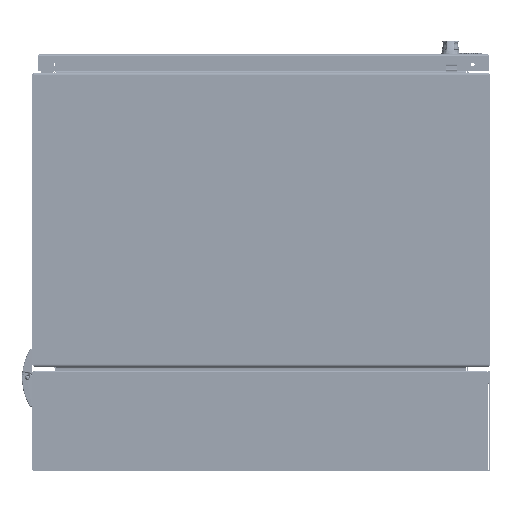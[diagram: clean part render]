
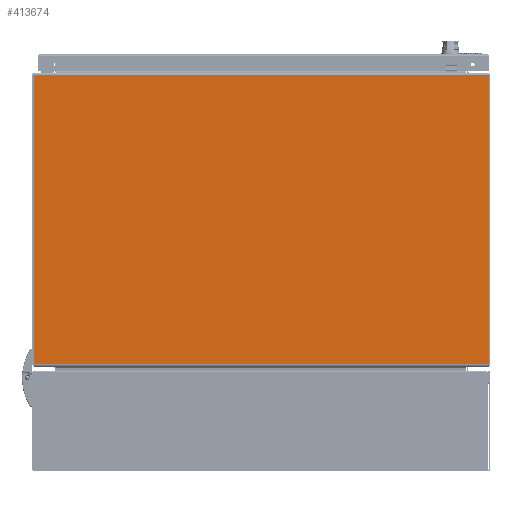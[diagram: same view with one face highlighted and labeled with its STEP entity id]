
A CAD part, front view. The second image highlights one B-rep face of the part: STEP entity #413674.
In plain terms, the highlighted planar face has unit normal (0, -1, 0).
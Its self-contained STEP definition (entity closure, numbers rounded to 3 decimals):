
#7201 = VERTEX_POINT ( 'NONE', #286776 ) ;
#7207 = VERTEX_POINT ( 'NONE', #286792 ) ;
#7213 = VERTEX_POINT ( 'NONE', #286806 ) ;
#7216 = VERTEX_POINT ( 'NONE', #286812 ) ;
#95807 = LINE ( 'NONE', #179483, #95814 ) ;
#95814 = VECTOR ( 'NONE', #179487, 1000. ) ;
#95829 = LINE ( 'NONE', #179541, #95843 ) ;
#95843 = VECTOR ( 'NONE', #179545, 1000. ) ;
#95951 = LINE ( 'NONE', #180404, #96015 ) ;
#96015 = VECTOR ( 'NONE', #180407, 1000. ) ;
#96031 = LINE ( 'NONE', #205211, #96060 ) ;
#96060 = VECTOR ( 'NONE', #205215, 1000. ) ;
#168855 = FACE_OUTER_BOUND ( 'NONE', #302043, .T. ) ;
#173308 = AXIS2_PLACEMENT_3D ( 'NONE', #216559, #216639, #216643 ) ;
#179483 = CARTESIAN_POINT ( 'NONE',  ( 348.171, 0., -225. ) ) ;
#179487 = DIRECTION ( 'NONE',  ( 0., 0., -1. ) ) ;
#179541 = CARTESIAN_POINT ( 'NONE',  ( -348.171, 0., -225. ) ) ;
#179545 = DIRECTION ( 'NONE',  ( 0., 0., 1. ) ) ;
#180404 = CARTESIAN_POINT ( 'NONE',  ( 348.171, 0., 220.885 ) ) ;
#180407 = DIRECTION ( 'NONE',  ( -1., 0., 0. ) ) ;
#205211 = CARTESIAN_POINT ( 'NONE',  ( -348.171, 0., -220.885 ) ) ;
#205215 = DIRECTION ( 'NONE',  ( 1., 0., 0. ) ) ;
#216559 = CARTESIAN_POINT ( 'NONE',  ( 348.171, 0., 225. ) ) ;
#216586 = PLANE ( 'NONE',  #173308 ) ;
#216639 = DIRECTION ( 'NONE',  ( 0., 1., 0. ) ) ;
#216643 = DIRECTION ( 'NONE',  ( 0., 0., 1. ) ) ;
#286776 = CARTESIAN_POINT ( 'NONE',  ( 348.171, 0., -220.885 ) ) ;
#286792 = CARTESIAN_POINT ( 'NONE',  ( 348.171, 0., 220.885 ) ) ;
#286806 = CARTESIAN_POINT ( 'NONE',  ( -348.171, 0., -220.885 ) ) ;
#286812 = CARTESIAN_POINT ( 'NONE',  ( -348.171, 0., 220.885 ) ) ;
#302043 = EDGE_LOOP ( 'NONE', ( #511148, #511152, #511156, #511160 ) ) ;
#413674 = ADVANCED_FACE ( 'NONE', ( #168855 ), #216586, .F. ) ;
#511148 = ORIENTED_EDGE ( 'NONE', *, *, #545712, .T. ) ;
#511152 = ORIENTED_EDGE ( 'NONE', *, *, #545675, .F. ) ;
#511156 = ORIENTED_EDGE ( 'NONE', *, *, #545707, .T. ) ;
#511160 = ORIENTED_EDGE ( 'NONE', *, *, #545679, .F. ) ;
#545675 = EDGE_CURVE ( 'NONE', #7207, #7201, #95807, .T. ) ;
#545679 = EDGE_CURVE ( 'NONE', #7213, #7216, #95829, .T. ) ;
#545707 = EDGE_CURVE ( 'NONE', #7207, #7216, #95951, .T. ) ;
#545712 = EDGE_CURVE ( 'NONE', #7213, #7201, #96031, .T. ) ;
